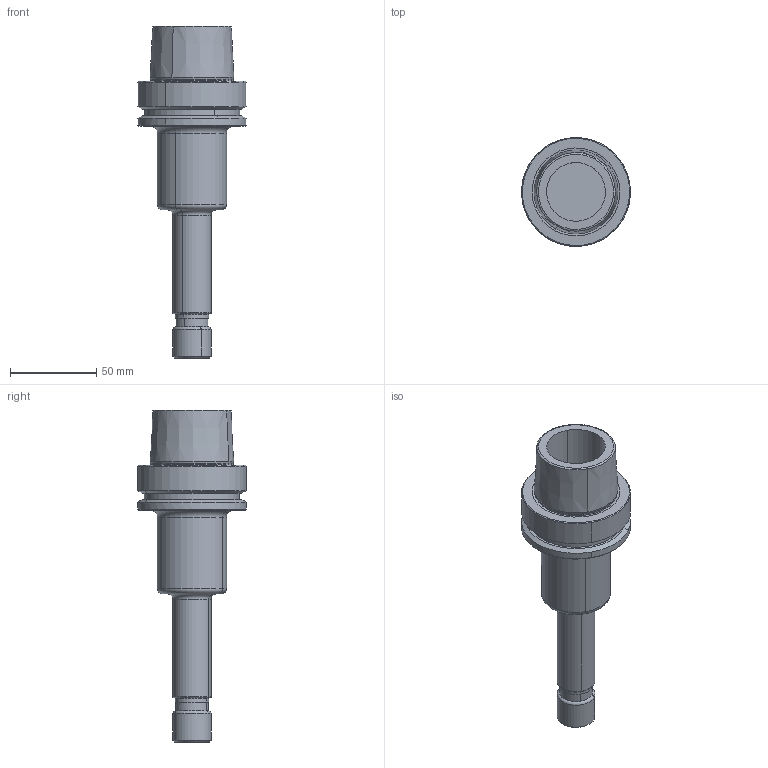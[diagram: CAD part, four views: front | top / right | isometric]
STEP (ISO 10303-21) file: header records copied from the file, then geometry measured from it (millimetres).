
FILE_DESCRIPTION(('CATIA V5 STEP','CAx-IF Rec.Pracs.--- Model Styling and Organization---1.2---2011-12-15'),'2;1');
FILE_NAME('\\nas01\drv1\utils\eitdev\rte\eit\transmagicconvert\db\out\635926117850046504\4561011-L-B.stp','2016-03-03T12:23:26+00:00',('none'),('none'),'CATIA Version 5 Release 21 SP 5 (IN-10)','CATIA V5 STEP AP214','none');
FILE_SCHEMA(('AUTOMOTIVE_DESIGN { 1 0 10303 214 1 1 1 1 }'));
Length unit declared in the file: millimetre
Products named in the file (1): HSK A 63 ER16X160 M
Bounding box: 62.98 x 63 x 192 mm (x, y, z)
Volume: 182288.9 mm3; surface area: 34360.1 mm2
Topology: 1 solids, 1 shells, 74 faces, 164 edges, 99 vertices
Faces by surface type: cylinder 26, cone 22, torus 16, plane 10
Entity records: 1919 total; most frequent: CARTESIAN_POINT 412, ORIENTED_EDGE 324, DIRECTION 246, EDGE_CURVE 162, AXIS2_PLACEMENT_3D 154, CIRCLE 108, VERTEX_POINT 99, EDGE_LOOP 83
